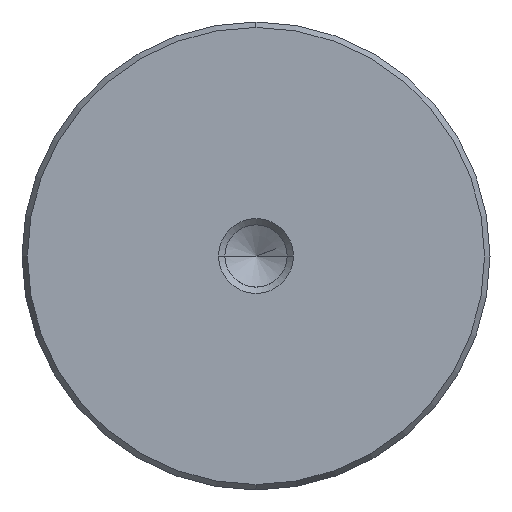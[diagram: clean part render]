
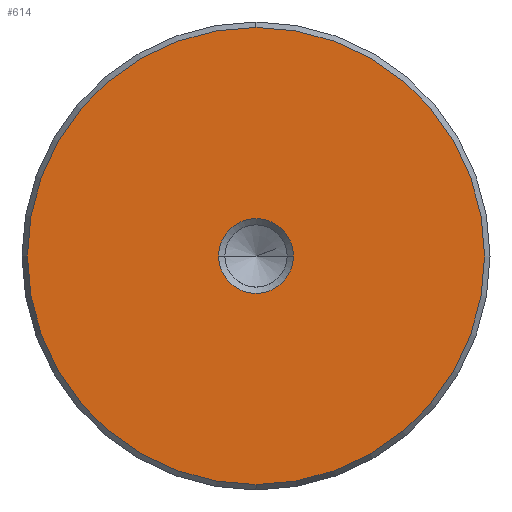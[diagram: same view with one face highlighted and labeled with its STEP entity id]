
A CAD part, left-side view. The second image highlights one B-rep face of the part: STEP entity #614.
In plain terms, the highlighted planar face has unit normal (-1, 0, 0).
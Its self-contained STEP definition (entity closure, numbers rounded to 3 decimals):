
#528=CARTESIAN_POINT('Vertex',(0.,0.,-24.423)) ;
#531=CARTESIAN_POINT('Axis2P3D Location',(0.,0.,0.)) ;
#535=CARTESIAN_POINT('Vertex',(0.,24.423,0.)) ;
#538=CARTESIAN_POINT('Axis2P3D Location',(0.,0.,0.)) ;
#542=CARTESIAN_POINT('Vertex',(0.,0.,24.423)) ;
#564=CARTESIAN_POINT('Axis2P3D Location',(0.,0.,0.)) ;
#568=CARTESIAN_POINT('Vertex',(0.,-24.423,0.)) ;
#571=CARTESIAN_POINT('Axis2P3D Location',(0.,0.,0.)) ;
#585=CARTESIAN_POINT('Axis2P3D Location',(0.,0.,0.)) ;
#596=CARTESIAN_POINT('Axis2P3D Location',(0.,0.,0.)) ;
#600=CARTESIAN_POINT('Vertex',(0.,4.,0.)) ;
#602=CARTESIAN_POINT('Vertex',(0.,-4.,0.)) ;
#605=CARTESIAN_POINT('Axis2P3D Location',(0.,0.,0.)) ;
#532=DIRECTION('Axis2P3D Direction',(1.,0.,-0.)) ;
#539=DIRECTION('Axis2P3D Direction',(1.,0.,-0.)) ;
#565=DIRECTION('Axis2P3D Direction',(1.,0.,-0.)) ;
#572=DIRECTION('Axis2P3D Direction',(1.,0.,-0.)) ;
#586=DIRECTION('Axis2P3D Direction',(1.,0.,-0.)) ;
#587=DIRECTION('Axis2P3D XDirection',(-0.,0.,-1.)) ;
#597=DIRECTION('Axis2P3D Direction',(1.,0.,-0.)) ;
#606=DIRECTION('Axis2P3D Direction',(1.,0.,-0.)) ;
#533=AXIS2_PLACEMENT_3D('Circle Axis2P3D',#531,#532,$) ;
#540=AXIS2_PLACEMENT_3D('Circle Axis2P3D',#538,#539,$) ;
#566=AXIS2_PLACEMENT_3D('Circle Axis2P3D',#564,#565,$) ;
#573=AXIS2_PLACEMENT_3D('Circle Axis2P3D',#571,#572,$) ;
#588=AXIS2_PLACEMENT_3D('Plane Axis2P3D',#585,#586,#587) ;
#598=AXIS2_PLACEMENT_3D('Circle Axis2P3D',#596,#597,$) ;
#607=AXIS2_PLACEMENT_3D('Circle Axis2P3D',#605,#606,$) ;
#591=ORIENTED_EDGE('',*,*,#537,.F.) ;
#592=ORIENTED_EDGE('',*,*,#575,.F.) ;
#593=ORIENTED_EDGE('',*,*,#570,.F.) ;
#594=ORIENTED_EDGE('',*,*,#544,.F.) ;
#611=ORIENTED_EDGE('',*,*,#604,.T.) ;
#612=ORIENTED_EDGE('',*,*,#609,.T.) ;
#613=FACE_BOUND('',#610,.T.) ;
#614=ADVANCED_FACE('720-50x224',(#595,#613),#589,.F.) ;
#534=CIRCLE('generated circle',#533,24.423) ;
#541=CIRCLE('generated circle',#540,24.423) ;
#567=CIRCLE('generated circle',#566,24.423) ;
#574=CIRCLE('generated circle',#573,24.423) ;
#599=CIRCLE('generated circle',#598,4.) ;
#608=CIRCLE('generated circle',#607,4.) ;
#537=EDGE_CURVE('',#529,#536,#534,.T.) ;
#544=EDGE_CURVE('',#536,#543,#541,.T.) ;
#570=EDGE_CURVE('',#543,#569,#567,.T.) ;
#575=EDGE_CURVE('',#569,#529,#574,.T.) ;
#604=EDGE_CURVE('',#601,#603,#599,.T.) ;
#609=EDGE_CURVE('',#603,#601,#608,.T.) ;
#590=EDGE_LOOP('',(#591,#592,#593,#594)) ;
#610=EDGE_LOOP('',(#611,#612)) ;
#595=FACE_OUTER_BOUND('',#590,.T.) ;
#589=PLANE('Plane',#588) ;
#529=VERTEX_POINT('',#528) ;
#536=VERTEX_POINT('',#535) ;
#543=VERTEX_POINT('',#542) ;
#569=VERTEX_POINT('',#568) ;
#601=VERTEX_POINT('',#600) ;
#603=VERTEX_POINT('',#602) ;
